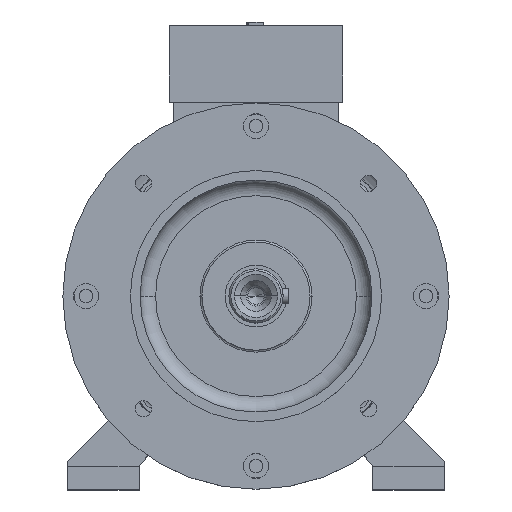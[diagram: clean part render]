
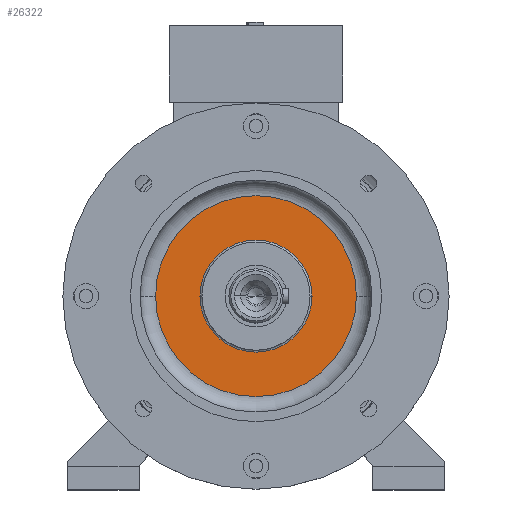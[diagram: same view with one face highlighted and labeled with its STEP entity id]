
A CAD part, top view. The second image highlights one B-rep face of the part: STEP entity #26322.
In plain terms, the highlighted planar face has unit normal (0, 0, 1).
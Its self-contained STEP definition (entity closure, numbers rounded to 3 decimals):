
#866 = CARTESIAN_POINT ( 'NONE',  ( -29., 0., 128. ) ) ;
#2844 = DIRECTION ( 'NONE',  ( 0., 0., -1. ) ) ;
#2969 = DIRECTION ( 'NONE',  ( 0., 0., -1. ) ) ;
#3348 = EDGE_CURVE ( 'NONE', #31358, #5737, #24103, .T. ) ;
#3645 = EDGE_CURVE ( 'NONE', #5737, #31358, #31100, .T. ) ;
#3950 = AXIS2_PLACEMENT_3D ( 'NONE', #11002, #2969, #30161 ) ;
#4217 = EDGE_LOOP ( 'NONE', ( #10497, #33501 ) ) ;
#5737 = VERTEX_POINT ( 'NONE', #866 ) ;
#6671 = CARTESIAN_POINT ( 'NONE',  ( 0., 0., 128. ) ) ;
#7683 = DIRECTION ( 'NONE',  ( -1., 0., 0. ) ) ;
#7762 = CIRCLE ( 'NONE', #22068, 52. ) ;
#10031 = EDGE_CURVE ( 'NONE', #21855, #33662, #30330, .T. ) ;
#10497 = ORIENTED_EDGE ( 'NONE', *, *, #3645, .T. ) ;
#11002 = CARTESIAN_POINT ( 'NONE',  ( 0., 29., 128. ) ) ;
#11221 = DIRECTION ( 'NONE',  ( -1., 0., 0. ) ) ;
#12984 = EDGE_CURVE ( 'NONE', #33662, #21855, #7762, .T. ) ;
#14600 = ORIENTED_EDGE ( 'NONE', *, *, #12984, .F. ) ;
#16419 = FACE_BOUND ( 'NONE', #4217, .T. ) ;
#18730 = PLANE ( 'NONE',  #3950 ) ;
#19069 = CARTESIAN_POINT ( 'NONE',  ( 0., 0., 128. ) ) ;
#21675 = EDGE_LOOP ( 'NONE', ( #23169, #14600 ) ) ;
#21855 = VERTEX_POINT ( 'NONE', #33802 ) ;
#22068 = AXIS2_PLACEMENT_3D ( 'NONE', #24649, #27330, #32149 ) ;
#22741 = DIRECTION ( 'NONE',  ( 0., 0., -1. ) ) ;
#23169 = ORIENTED_EDGE ( 'NONE', *, *, #10031, .F. ) ;
#24103 = CIRCLE ( 'NONE', #29194, 29. ) ;
#24649 = CARTESIAN_POINT ( 'NONE',  ( 0., 0., 128. ) ) ;
#26322 = ADVANCED_FACE ( 'NONE', ( #31111, #16419 ), #18730, .F. ) ;
#27330 = DIRECTION ( 'NONE',  ( 0., 0., -1. ) ) ;
#27682 = CARTESIAN_POINT ( 'NONE',  ( 52., 0., 128. ) ) ;
#29194 = AXIS2_PLACEMENT_3D ( 'NONE', #19069, #2844, #11221 ) ;
#29645 = AXIS2_PLACEMENT_3D ( 'NONE', #6671, #22741, #33286 ) ;
#30161 = DIRECTION ( 'NONE',  ( -1., 0., 0. ) ) ;
#30330 = CIRCLE ( 'NONE', #31224, 52. ) ;
#31100 = CIRCLE ( 'NONE', #29645, 29. ) ;
#31111 = FACE_OUTER_BOUND ( 'NONE', #21675, .T. ) ;
#31224 = AXIS2_PLACEMENT_3D ( 'NONE', #31739, #34676, #7683 ) ;
#31358 = VERTEX_POINT ( 'NONE', #33489 ) ;
#31739 = CARTESIAN_POINT ( 'NONE',  ( 0., 0., 128. ) ) ;
#32149 = DIRECTION ( 'NONE',  ( -1., 0., 0. ) ) ;
#33286 = DIRECTION ( 'NONE',  ( -1., 0., 0. ) ) ;
#33489 = CARTESIAN_POINT ( 'NONE',  ( 29., 0., 128. ) ) ;
#33501 = ORIENTED_EDGE ( 'NONE', *, *, #3348, .T. ) ;
#33662 = VERTEX_POINT ( 'NONE', #27682 ) ;
#33802 = CARTESIAN_POINT ( 'NONE',  ( -52., 0., 128. ) ) ;
#34676 = DIRECTION ( 'NONE',  ( 0., 0., -1. ) ) ;
